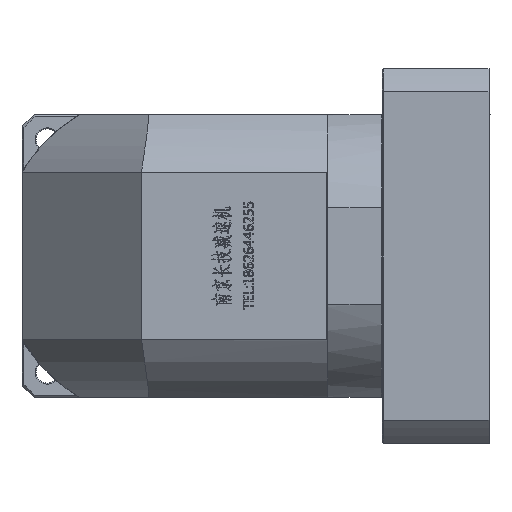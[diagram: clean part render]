
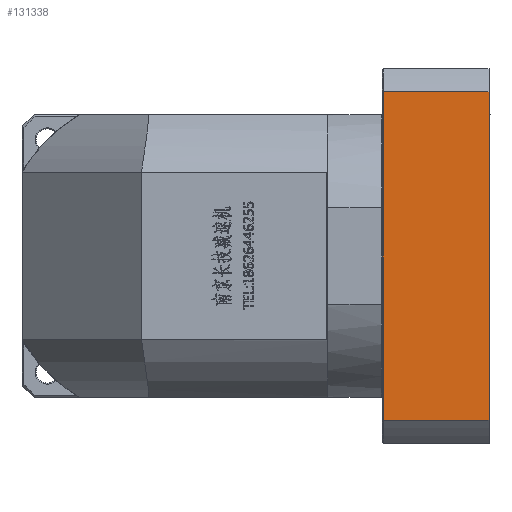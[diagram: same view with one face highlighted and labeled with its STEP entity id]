
A CAD part, left-side view. The second image highlights one B-rep face of the part: STEP entity #131338.
In plain terms, the highlighted planar face has unit normal (-1, 0, 0).
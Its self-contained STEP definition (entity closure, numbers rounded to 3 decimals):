
#3438 = LINE ( 'NONE', #97464, #118294 ) ;
#7981 = ORIENTED_EDGE ( 'NONE', *, *, #116547, .F. ) ;
#10638 = VECTOR ( 'NONE', #50151, 1000. ) ;
#12229 = VERTEX_POINT ( 'NONE', #160074 ) ;
#19457 = CARTESIAN_POINT ( 'NONE',  ( -334.551, -14.486, -129.167 ) ) ;
#37564 = FACE_OUTER_BOUND ( 'NONE', #166457, .T. ) ;
#37733 = CARTESIAN_POINT ( 'NONE',  ( -334.551, 396.603, -117.562 ) ) ;
#38576 = CARTESIAN_POINT ( 'NONE',  ( -334.551, -13.986, -117.562 ) ) ;
#50151 = DIRECTION ( 'NONE',  ( 0., 1., 0. ) ) ;
#56641 = DIRECTION ( 'NONE',  ( 1., 0., 0. ) ) ;
#62605 = ORIENTED_EDGE ( 'NONE', *, *, #121510, .F. ) ;
#65263 = ORIENTED_EDGE ( 'NONE', *, *, #79415, .T. ) ;
#67656 = CARTESIAN_POINT ( 'NONE',  ( -334.551, -13.986, -129.167 ) ) ;
#77394 = CARTESIAN_POINT ( 'NONE',  ( -334.551, 39.014, 47.229 ) ) ;
#77510 = CARTESIAN_POINT ( 'NONE',  ( -334.551, -14.486, 47.229 ) ) ;
#79415 = EDGE_CURVE ( 'NONE', #153461, #135875, #3438, .T. ) ;
#82517 = PLANE ( 'NONE',  #135322 ) ;
#85096 = DIRECTION ( 'NONE',  ( 0., 0., -1. ) ) ;
#97464 = CARTESIAN_POINT ( 'NONE',  ( -334.551, 39.014, -129.167 ) ) ;
#103944 = DIRECTION ( 'NONE',  ( 0., -1., 0. ) ) ;
#114104 = VECTOR ( 'NONE', #85096, 1000. ) ;
#114225 = LINE ( 'NONE', #77510, #150231 ) ;
#116547 = EDGE_CURVE ( 'NONE', #12229, #134564, #136128, .T. ) ;
#118294 = VECTOR ( 'NONE', #122801, 1000. ) ;
#121510 = EDGE_CURVE ( 'NONE', #153461, #12229, #114225, .T. ) ;
#122801 = DIRECTION ( 'NONE',  ( 0., 0., -1. ) ) ;
#123029 = DIRECTION ( 'NONE',  ( 0., 1., 0. ) ) ;
#125650 = ORIENTED_EDGE ( 'NONE', *, *, #126388, .F. ) ;
#126388 = EDGE_CURVE ( 'NONE', #134564, #135875, #151487, .T. ) ;
#131338 = ADVANCED_FACE ( 'NONE', ( #37564 ), #82517, .F. ) ;
#134564 = VERTEX_POINT ( 'NONE', #38576 ) ;
#135322 = AXIS2_PLACEMENT_3D ( 'NONE', #19457, #56641, #123029 ) ;
#135875 = VERTEX_POINT ( 'NONE', #162299 ) ;
#136128 = LINE ( 'NONE', #67656, #114104 ) ;
#150231 = VECTOR ( 'NONE', #103944, 1000. ) ;
#151487 = LINE ( 'NONE', #37733, #10638 ) ;
#153461 = VERTEX_POINT ( 'NONE', #77394 ) ;
#160074 = CARTESIAN_POINT ( 'NONE',  ( -334.551, -13.986, 47.229 ) ) ;
#162299 = CARTESIAN_POINT ( 'NONE',  ( -334.551, 39.014, -117.562 ) ) ;
#166457 = EDGE_LOOP ( 'NONE', ( #62605, #65263, #125650, #7981 ) ) ;
